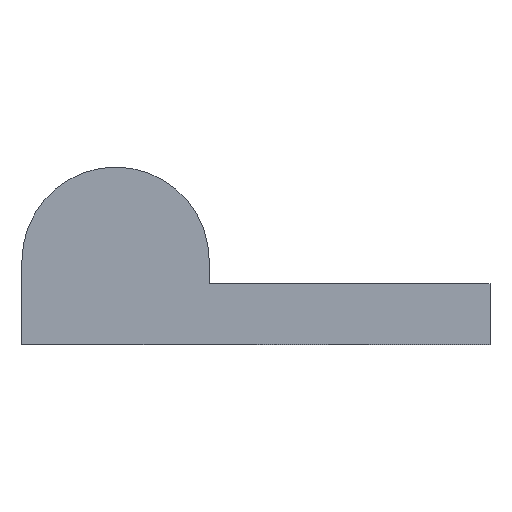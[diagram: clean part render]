
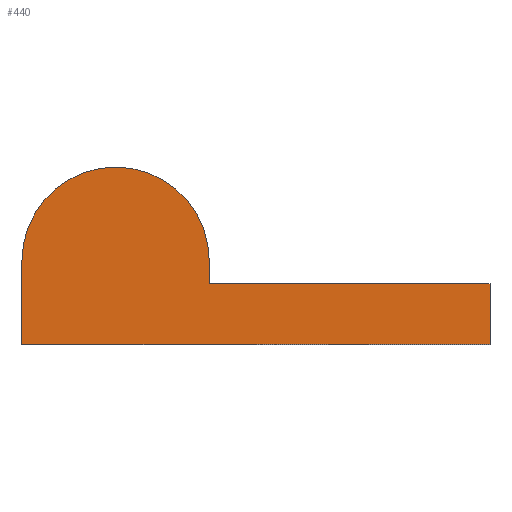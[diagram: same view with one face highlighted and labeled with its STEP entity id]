
A CAD part, top view. The second image highlights one B-rep face of the part: STEP entity #440.
In plain terms, the highlighted planar face has unit normal (0, 0, 1).
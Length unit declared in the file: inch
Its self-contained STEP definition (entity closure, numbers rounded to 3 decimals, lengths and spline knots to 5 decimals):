
#83=PLANE('',#546);
#106=FACE_OUTER_BOUND('',#140,.T.);
#140=EDGE_LOOP('',(#365,#366,#367,#368,#369,#370));
#173=LINE('',#781,#199);
#176=LINE('',#789,#202);
#178=LINE('',#793,#204);
#180=LINE('',#797,#206);
#182=LINE('',#800,#208);
#199=VECTOR('',#625,0.3937);
#202=VECTOR('',#634,0.3937);
#204=VECTOR('',#638,0.3937);
#206=VECTOR('',#642,0.3937);
#208=VECTOR('',#646,0.3937);
#222=CIRCLE('',#541,0.1);
#253=VERTEX_POINT('',#778);
#254=VERTEX_POINT('',#780);
#255=VERTEX_POINT('',#784);
#256=VERTEX_POINT('',#788);
#257=VERTEX_POINT('',#792);
#258=VERTEX_POINT('',#796);
#288=EDGE_CURVE('',#254,#253,#173,.T.);
#290=EDGE_CURVE('',#255,#254,#222,.T.);
#292=EDGE_CURVE('',#256,#255,#176,.T.);
#294=EDGE_CURVE('',#257,#256,#178,.T.);
#296=EDGE_CURVE('',#258,#257,#180,.T.);
#298=EDGE_CURVE('',#253,#258,#182,.T.);
#365=ORIENTED_EDGE('',*,*,#298,.T.);
#366=ORIENTED_EDGE('',*,*,#296,.T.);
#367=ORIENTED_EDGE('',*,*,#294,.T.);
#368=ORIENTED_EDGE('',*,*,#292,.T.);
#369=ORIENTED_EDGE('',*,*,#290,.T.);
#370=ORIENTED_EDGE('',*,*,#288,.T.);
#440=ADVANCED_FACE('',(#106),#83,.T.);
#541=AXIS2_PLACEMENT_3D('',#785,#629,#630);
#546=AXIS2_PLACEMENT_3D('',#801,#647,#648);
#625=DIRECTION('',(0.,-1.,0.));
#629=DIRECTION('center_axis',(0.,0.,1.));
#630=DIRECTION('ref_axis',(1.,0.,0.));
#634=DIRECTION('',(0.,1.,0.));
#638=DIRECTION('',(-1.,0.,0.));
#642=DIRECTION('',(0.,1.,0.));
#646=DIRECTION('',(1.,0.,0.));
#647=DIRECTION('center_axis',(0.,0.,1.));
#648=DIRECTION('ref_axis',(1.,0.,0.));
#778=CARTESIAN_POINT('',(-0.25,-0.0325,0.165));
#780=CARTESIAN_POINT('',(-0.25,0.0569,0.165));
#781=CARTESIAN_POINT('',(-0.25,0.0569,0.165));
#784=CARTESIAN_POINT('',(-0.05,0.0569,0.165));
#785=CARTESIAN_POINT('Origin',(-0.15,0.0569,0.165));
#788=CARTESIAN_POINT('',(-0.05,0.0325,0.165));
#789=CARTESIAN_POINT('',(-0.05,0.0325,0.165));
#792=CARTESIAN_POINT('',(0.25,0.0325,0.165));
#793=CARTESIAN_POINT('',(0.25,0.0325,0.165));
#796=CARTESIAN_POINT('',(0.25,-0.0325,0.165));
#797=CARTESIAN_POINT('',(0.25,-0.0325,0.165));
#800=CARTESIAN_POINT('',(-0.25,-0.0325,0.165));
#801=CARTESIAN_POINT('Origin',(0.,0.0622,
0.165));
